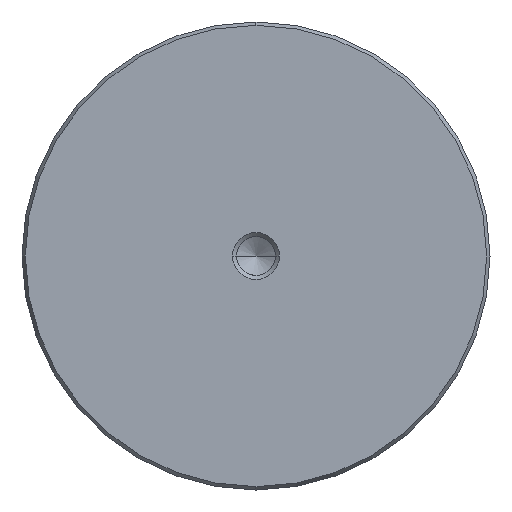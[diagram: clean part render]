
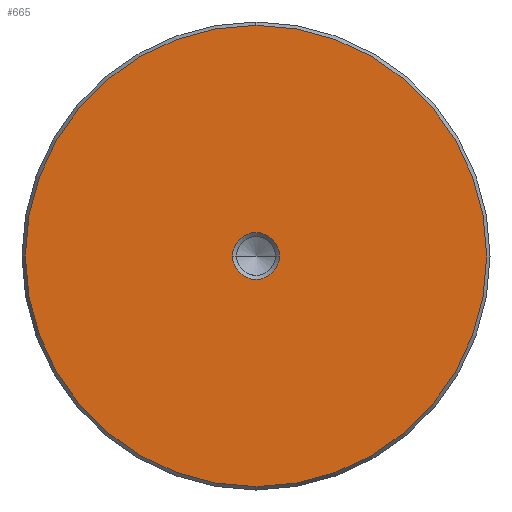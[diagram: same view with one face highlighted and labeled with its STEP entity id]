
A CAD part, left-side view. The second image highlights one B-rep face of the part: STEP entity #665.
In plain terms, the highlighted planar face has unit normal (-1, 0, 0).
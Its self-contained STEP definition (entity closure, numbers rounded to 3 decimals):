
#579=CARTESIAN_POINT('Vertex',(0.,0.,-39.423)) ;
#582=CARTESIAN_POINT('Axis2P3D Location',(0.,0.,0.)) ;
#586=CARTESIAN_POINT('Vertex',(0.,39.423,0.)) ;
#589=CARTESIAN_POINT('Axis2P3D Location',(0.,0.,0.)) ;
#593=CARTESIAN_POINT('Vertex',(0.,0.,39.423)) ;
#615=CARTESIAN_POINT('Axis2P3D Location',(0.,0.,0.)) ;
#619=CARTESIAN_POINT('Vertex',(0.,-39.423,0.)) ;
#622=CARTESIAN_POINT('Axis2P3D Location',(0.,0.,0.)) ;
#636=CARTESIAN_POINT('Axis2P3D Location',(0.,0.,0.)) ;
#647=CARTESIAN_POINT('Axis2P3D Location',(0.,0.,0.)) ;
#651=CARTESIAN_POINT('Vertex',(0.,4.,0.)) ;
#653=CARTESIAN_POINT('Vertex',(0.,-4.,0.)) ;
#656=CARTESIAN_POINT('Axis2P3D Location',(0.,0.,0.)) ;
#583=DIRECTION('Axis2P3D Direction',(1.,0.,-0.)) ;
#590=DIRECTION('Axis2P3D Direction',(1.,0.,-0.)) ;
#616=DIRECTION('Axis2P3D Direction',(1.,0.,-0.)) ;
#623=DIRECTION('Axis2P3D Direction',(1.,0.,-0.)) ;
#637=DIRECTION('Axis2P3D Direction',(1.,0.,-0.)) ;
#638=DIRECTION('Axis2P3D XDirection',(-0.,0.,-1.)) ;
#648=DIRECTION('Axis2P3D Direction',(1.,0.,-0.)) ;
#657=DIRECTION('Axis2P3D Direction',(1.,0.,-0.)) ;
#584=AXIS2_PLACEMENT_3D('Circle Axis2P3D',#582,#583,$) ;
#591=AXIS2_PLACEMENT_3D('Circle Axis2P3D',#589,#590,$) ;
#617=AXIS2_PLACEMENT_3D('Circle Axis2P3D',#615,#616,$) ;
#624=AXIS2_PLACEMENT_3D('Circle Axis2P3D',#622,#623,$) ;
#639=AXIS2_PLACEMENT_3D('Plane Axis2P3D',#636,#637,#638) ;
#649=AXIS2_PLACEMENT_3D('Circle Axis2P3D',#647,#648,$) ;
#658=AXIS2_PLACEMENT_3D('Circle Axis2P3D',#656,#657,$) ;
#642=ORIENTED_EDGE('',*,*,#588,.F.) ;
#643=ORIENTED_EDGE('',*,*,#626,.F.) ;
#644=ORIENTED_EDGE('',*,*,#621,.F.) ;
#645=ORIENTED_EDGE('',*,*,#595,.F.) ;
#662=ORIENTED_EDGE('',*,*,#655,.T.) ;
#663=ORIENTED_EDGE('',*,*,#660,.T.) ;
#664=FACE_BOUND('',#661,.T.) ;
#665=ADVANCED_FACE('720-80x315',(#646,#664),#640,.F.) ;
#585=CIRCLE('generated circle',#584,39.423) ;
#592=CIRCLE('generated circle',#591,39.423) ;
#618=CIRCLE('generated circle',#617,39.423) ;
#625=CIRCLE('generated circle',#624,39.423) ;
#650=CIRCLE('generated circle',#649,4.) ;
#659=CIRCLE('generated circle',#658,4.) ;
#588=EDGE_CURVE('',#580,#587,#585,.T.) ;
#595=EDGE_CURVE('',#587,#594,#592,.T.) ;
#621=EDGE_CURVE('',#594,#620,#618,.T.) ;
#626=EDGE_CURVE('',#620,#580,#625,.T.) ;
#655=EDGE_CURVE('',#652,#654,#650,.T.) ;
#660=EDGE_CURVE('',#654,#652,#659,.T.) ;
#641=EDGE_LOOP('',(#642,#643,#644,#645)) ;
#661=EDGE_LOOP('',(#662,#663)) ;
#646=FACE_OUTER_BOUND('',#641,.T.) ;
#640=PLANE('Plane',#639) ;
#580=VERTEX_POINT('',#579) ;
#587=VERTEX_POINT('',#586) ;
#594=VERTEX_POINT('',#593) ;
#620=VERTEX_POINT('',#619) ;
#652=VERTEX_POINT('',#651) ;
#654=VERTEX_POINT('',#653) ;
